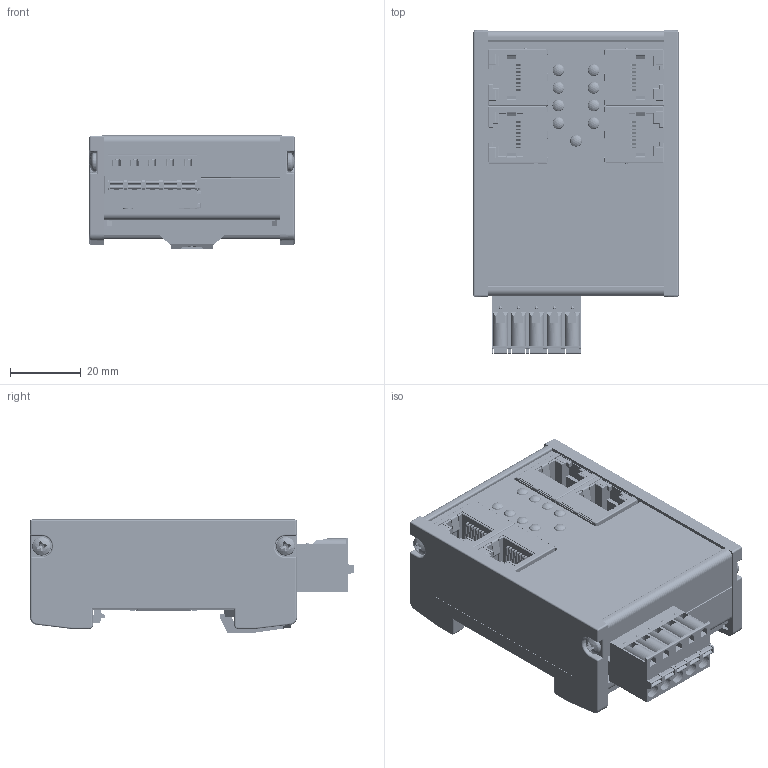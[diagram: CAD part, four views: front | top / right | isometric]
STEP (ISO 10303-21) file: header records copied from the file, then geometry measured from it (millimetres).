
FILE_DESCRIPTION (( 'STEP AP214' ), '1' );
FILE_NAME ('700-158-3PN02_V00-00.STEP', '2019-04-01T05:27:41', ( '' ), ( '' ), 'SwSTEP 2.0', 'SolidWorks 2019', '' );
FILE_SCHEMA (( 'AUTOMOTIVE_DESIGN' ));
Length unit declared in the file: millimetre
Products named in the file (34): x005-1-s-0p V 00-00; SchraubefürHutschienenclip; Artikelnummer; PLP2-xxx; m-k30x08-bj V 00-10; g-alu-002_V00-00; 7037V01-Single; g-alu-083 V 00-10_cutout for 5.08 grid; g-alu-002_V00-00_RAL 6034; g-alu-001 V01-03_RAL 6034 ; 700-158-3PN02_V00-00; ps-alu-193 V00-20; g-alu-083 V 00-10; g-alu-001 V01-03; PLP2-xxx_PLP2-7MM; ps-alu-193 V00-20_700-153-3PN01
Assembly tree (23 placements, depth 2):
  PLP2-xxx
  Artikelnummer
  PLP2-xxx
  m-k30x08-bj V 00-10
  m-k30x08-bj V 00-10
Bounding box: 58 x 91.5 x 31.98 mm (x, y, z)
Volume: 35106.6 mm3; surface area: 72416.1 mm2
Topology: 42 solids, 321 shells, 12088 faces, 31674 edges, 20344 vertices
Faces by surface type: plane 8066, cylinder 2212, bspline 1585, cone 173, sphere 46, torus 6
Entity records: 495968 total; most frequent: CARTESIAN_POINT 104809, ORIENTED_EDGE 59730, DIRECTION 50986, EDGE_CURVE 29881, VECTOR 22350, LINE 22350, VERTEX_POINT 19321, AXIS2_PLACEMENT_3D 14318
